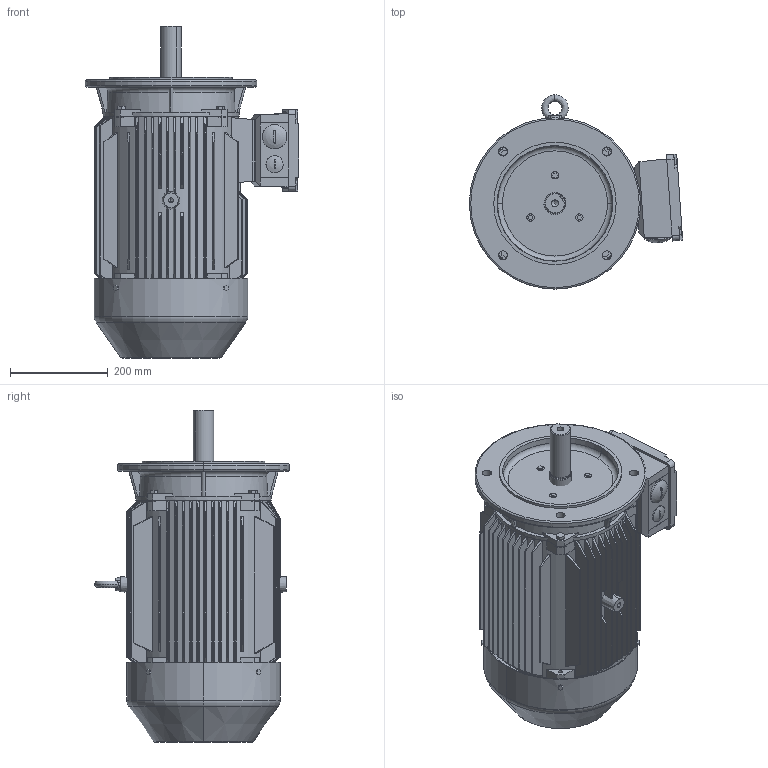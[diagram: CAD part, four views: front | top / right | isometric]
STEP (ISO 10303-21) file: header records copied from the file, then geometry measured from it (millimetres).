
FILE_DESCRIPTION (( 'STEP AP203' ), '1' );
FILE_NAME ('TE3-160L B5.STEP', '2019-12-18T02:48:51', ( '微软用户' ), ( '微软中国' ), 'SwSTEP 2.0', 'SolidWorks 2012', '' );
FILE_SCHEMA (( 'CONFIG_CONTROL_DESIGN' ));
Products named in the file (11): TE3-160L B5; eyebolts gb_GB_FASTENER_SCREWS_FRS M12-N; hexagon head bolts--product grade c gb_GB_FASTENER_BOLT_HHBC M8X40-N; 5EJ.354.484GX160~180P24諉盄碟; hexagon head bolts-full thread gb_GB_FASTENER_BOLT_STBAB A M6X12-N; 8EJ.353.10053GX160~180P24諉盄碟裔; 8EJ.354.593Y2-160~180P24諉盄碟釱; TE3-160 粣扥; YX3-160瑞欶; TE3-160 B35,B5芧埽傷裔; YX3-160L儂釱 B5
Assembly tree (13 placements, depth 3):
  TE3-160L B5
    YX3-160L儂釱 B5
    TE3-160 B35,B5芧埽傷裔
    YX3-160瑞欶
    TE3-160 粣扥
    5EJ.354.484GX160~180P24諉盄碟
      8EJ.354.593Y2-160~180P24諉盄碟釱
      8EJ.353.10053GX160~180P24諉盄碟裔
      hexagon head bolts-full thread gb_GB_FASTENER_BOLT_STBAB A M6X12-N  x4
    hexagon head bolts--product grade c gb_GB_FASTENER_BOLT_HHBC M8X40-N
    eyebolts gb_GB_FASTENER_SCREWS_FRS M12-N
Bounding box: 435.87 x 397.1 x 678 mm (x, y, z)
Volume: 28964425.4 mm3; surface area: 2008932.7 mm2
Topology: 12 solids, 15 shells, 1698 faces, 4233 edges, 2805 vertices
Faces by surface type: plane 1226, cylinder 231, cone 116, bspline 92, torus 31, sphere 2
Entity records: 118292 total; most frequent: CARTESIAN_POINT 79473, ORIENTED_EDGE 8062, DIRECTION 6914, EDGE_CURVE 4031, LINE 2820, VECTOR 2820, VERTEX_POINT 2683, AXIS2_PLACEMENT_3D 2047
